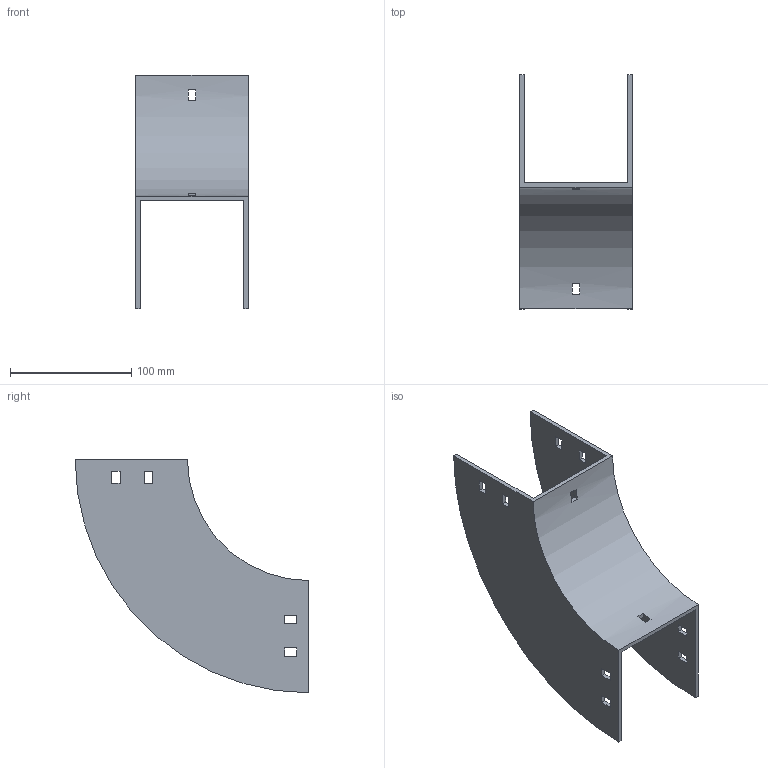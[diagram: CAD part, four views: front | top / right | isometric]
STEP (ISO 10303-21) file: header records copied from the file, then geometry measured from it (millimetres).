
FILE_DESCRIPTION (( 'STEP AP214' ), '1' );
FILE_NAME ('33B1I092.step', '2025-02-21T09:32:53', ( '' ), ( '' ), 'SwSTEP 2.0', 'SolidWorks 2023', '' );
FILE_SCHEMA (( 'AUTOMOTIVE_DESIGN' ));
Length unit declared in the file: millimetre
Products named in the file (1): 33B1I092
Bounding box: 92.5 x 192.5 x 192.5 mm (x, y, z)
Volume: 194203 mm3; surface area: 116136.1 mm2
Topology: 1 solids, 1 shells, 50 faces, 144 edges, 96 vertices
Faces by surface type: plane 46, cylinder 4
Entity records: 1687 total; most frequent: CARTESIAN_POINT 291, ORIENTED_EDGE 288, DIRECTION 262, EDGE_CURVE 144, LINE 128, VECTOR 128, VERTEX_POINT 96, EDGE_LOOP 70
